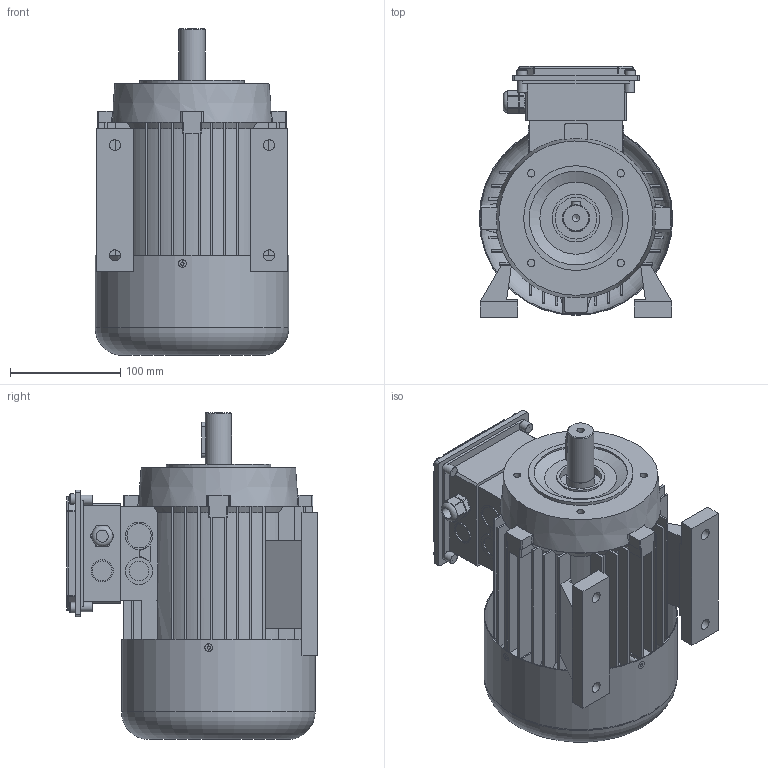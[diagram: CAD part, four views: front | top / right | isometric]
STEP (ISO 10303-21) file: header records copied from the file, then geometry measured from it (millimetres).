
FILE_DESCRIPTION(/* description */ (''),/* implementation_level */ '2;1');
FILE_NAME(/* name */ 'C:\Users\Public\Documents\Autodesk\Inventor LT 2014\Workspace\Componenti_ecoPM\3 - ECO5_90 (TG5)\ECO5_90x_xxA1.stp',/* time_stamp */ '2021-07-28T16:12:55+02:00',/* author */ ('marcor'),/* organization */ (''),/* preprocessor_version */ 'ST-DEVELOPER v15.2',/* originating_system */ 'Autodesk Inventor LT ',/* authorisation */ '');
FILE_SCHEMA (('AUTOMOTIVE_DESIGN { 1 0 10303 214 3 1 1 }'));
Length unit declared in the file: millimetre
Products named in the file (1): ECO5_90x_xxA1
Bounding box: 175.9 x 227.8 x 297 mm (x, y, z)
Volume: 4082480.6 mm3; surface area: 449106.7 mm2
Topology: 1 solids, 9 shells, 597 faces, 1572 edges, 1016 vertices
Faces by surface type: plane 366, cylinder 143, cone 68, bspline 8, sphere 8, torus 4
Full cylindrical faces by diameter (mm): 2.85 x4, 4.134 x8, 6.647 x5, 7 x4, 9 x4, 9.5 x4, 10 x4, 11 x1, 16 x1, 16.9 x1, 17.294 x1, 18 x4, 20 x1, 22 x2, 24 x1, 24.9 x1, 25 x4, 38 x1, 40 x1, 43.3 x1, 85 x1, 95 x1, 174.5 x1, 175.9 x1
Entity records: 18140 total; most frequent: CARTESIAN_POINT 4022, ORIENTED_EDGE 2894, DIRECTION 2886, EDGE_CURVE 1447, AXIS2_PLACEMENT_3D 1019, VERTEX_POINT 977, LINE 848, VECTOR 848
